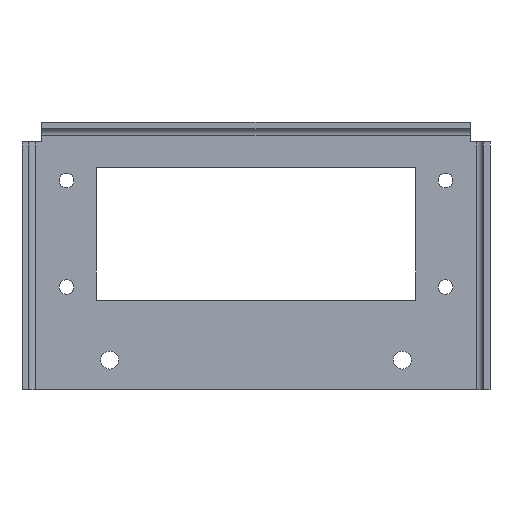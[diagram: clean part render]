
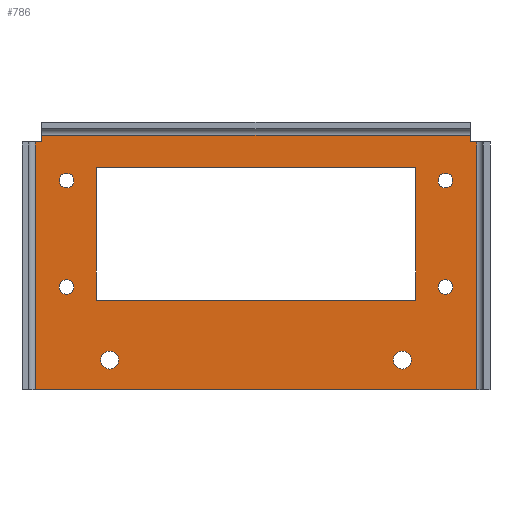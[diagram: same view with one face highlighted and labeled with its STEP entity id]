
A CAD part, left-side view. The second image highlights one B-rep face of the part: STEP entity #786.
In plain terms, the highlighted planar face has unit normal (-1, 0, 0).
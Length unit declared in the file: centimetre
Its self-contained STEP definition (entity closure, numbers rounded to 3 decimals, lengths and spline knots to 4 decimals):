
#15=FACE_BOUND('',#133,.T.);
#16=FACE_BOUND('',#134,.T.);
#17=FACE_BOUND('',#135,.T.);
#18=FACE_BOUND('',#136,.T.);
#19=FACE_BOUND('',#137,.T.);
#20=FACE_BOUND('',#138,.T.);
#21=FACE_BOUND('',#139,.T.);
#44=PLANE('',#866);
#86=FACE_OUTER_BOUND('',#132,.T.);
#132=EDGE_LOOP('',(#619,#620,#621,#622,#623,#624,#625,#626));
#133=EDGE_LOOP('',(#627));
#134=EDGE_LOOP('',(#628));
#135=EDGE_LOOP('',(#629));
#136=EDGE_LOOP('',(#630));
#137=EDGE_LOOP('',(#631,#632,#633,#634));
#138=EDGE_LOOP('',(#635));
#139=EDGE_LOOP('',(#636));
#179=LINE('',#1157,#259);
#183=LINE('',#1165,#263);
#186=LINE('',#1171,#266);
#189=LINE('',#1176,#269);
#210=LINE('',#1241,#290);
#211=LINE('',#1245,#291);
#212=LINE('',#1247,#292);
#213=LINE('',#1249,#293);
#214=LINE('',#1251,#294);
#215=LINE('',#1253,#295);
#216=LINE('',#1255,#296);
#217=LINE('',#1256,#297);
#259=VECTOR('',#931,1.);
#263=VECTOR('',#937,1.);
#266=VECTOR('',#942,1.);
#269=VECTOR('',#947,1.);
#290=VECTOR('',#1016,1.);
#291=VECTOR('',#1021,1.);
#292=VECTOR('',#1022,1.);
#293=VECTOR('',#1023,1.);
#294=VECTOR('',#1024,1.);
#295=VECTOR('',#1025,1.);
#296=VECTOR('',#1026,1.);
#297=VECTOR('',#1027,1.);
#339=CIRCLE('',#832,0.11);
#341=CIRCLE('',#835,0.135);
#343=CIRCLE('',#842,0.135);
#345=CIRCLE('',#845,0.11);
#347=CIRCLE('',#848,0.11);
#349=CIRCLE('',#851,0.11);
#367=VERTEX_POINT('',#1143);
#369=VERTEX_POINT('',#1149);
#371=VERTEX_POINT('',#1155);
#372=VERTEX_POINT('',#1156);
#375=VERTEX_POINT('',#1164);
#377=VERTEX_POINT('',#1170);
#379=VERTEX_POINT('',#1179);
#381=VERTEX_POINT('',#1185);
#383=VERTEX_POINT('',#1191);
#385=VERTEX_POINT('',#1197);
#396=VERTEX_POINT('',#1227);
#397=VERTEX_POINT('',#1231);
#399=VERTEX_POINT('',#1244);
#400=VERTEX_POINT('',#1246);
#401=VERTEX_POINT('',#1248);
#402=VERTEX_POINT('',#1250);
#403=VERTEX_POINT('',#1252);
#404=VERTEX_POINT('',#1254);
#433=EDGE_CURVE('',#367,#367,#339,.T.);
#436=EDGE_CURVE('',#369,#369,#341,.T.);
#439=EDGE_CURVE('',#371,#372,#179,.T.);
#443=EDGE_CURVE('',#372,#375,#183,.T.);
#446=EDGE_CURVE('',#375,#377,#186,.T.);
#449=EDGE_CURVE('',#377,#371,#189,.T.);
#451=EDGE_CURVE('',#379,#379,#343,.T.);
#454=EDGE_CURVE('',#381,#381,#345,.T.);
#457=EDGE_CURVE('',#383,#383,#347,.T.);
#460=EDGE_CURVE('',#385,#385,#349,.T.);
#482=EDGE_CURVE('',#396,#397,#210,.T.);
#483=EDGE_CURVE('',#397,#399,#211,.T.);
#484=EDGE_CURVE('',#399,#400,#212,.T.);
#485=EDGE_CURVE('',#400,#401,#213,.T.);
#486=EDGE_CURVE('',#401,#402,#214,.T.);
#487=EDGE_CURVE('',#402,#403,#215,.T.);
#488=EDGE_CURVE('',#403,#404,#216,.T.);
#489=EDGE_CURVE('',#404,#396,#217,.T.);
#619=ORIENTED_EDGE('',*,*,#482,.T.);
#620=ORIENTED_EDGE('',*,*,#483,.T.);
#621=ORIENTED_EDGE('',*,*,#484,.T.);
#622=ORIENTED_EDGE('',*,*,#485,.T.);
#623=ORIENTED_EDGE('',*,*,#486,.T.);
#624=ORIENTED_EDGE('',*,*,#487,.T.);
#625=ORIENTED_EDGE('',*,*,#488,.T.);
#626=ORIENTED_EDGE('',*,*,#489,.T.);
#627=ORIENTED_EDGE('',*,*,#460,.T.);
#628=ORIENTED_EDGE('',*,*,#457,.T.);
#629=ORIENTED_EDGE('',*,*,#454,.T.);
#630=ORIENTED_EDGE('',*,*,#451,.T.);
#631=ORIENTED_EDGE('',*,*,#446,.T.);
#632=ORIENTED_EDGE('',*,*,#449,.T.);
#633=ORIENTED_EDGE('',*,*,#439,.T.);
#634=ORIENTED_EDGE('',*,*,#443,.T.);
#635=ORIENTED_EDGE('',*,*,#436,.T.);
#636=ORIENTED_EDGE('',*,*,#433,.T.);
#786=ADVANCED_FACE('',(#86,#15,#16,#17,#18,#19,#20,#21),#44,.T.);
#832=AXIS2_PLACEMENT_3D('',#1144,#917,#918);
#835=AXIS2_PLACEMENT_3D('',#1150,#924,#925);
#842=AXIS2_PLACEMENT_3D('',#1180,#951,#952);
#845=AXIS2_PLACEMENT_3D('',#1186,#958,#959);
#848=AXIS2_PLACEMENT_3D('',#1192,#965,#966);
#851=AXIS2_PLACEMENT_3D('',#1198,#972,#973);
#866=AXIS2_PLACEMENT_3D('',#1243,#1019,#1020);
#917=DIRECTION('center_axis',(1.,0.,0.));
#918=DIRECTION('ref_axis',(0.,0.,-1.));
#924=DIRECTION('center_axis',(1.,0.,0.));
#925=DIRECTION('ref_axis',(0.,0.,-1.));
#931=DIRECTION('',(0.,1.,0.));
#937=DIRECTION('',(0.,0.,1.));
#942=DIRECTION('',(0.,-1.,0.));
#947=DIRECTION('',(0.,0.,-1.));
#951=DIRECTION('center_axis',(1.,0.,0.));
#952=DIRECTION('ref_axis',(0.,0.,-1.));
#958=DIRECTION('center_axis',(1.,0.,0.));
#959=DIRECTION('ref_axis',(0.,0.,-1.));
#965=DIRECTION('center_axis',(1.,0.,0.));
#966=DIRECTION('ref_axis',(0.,0.,-1.));
#972=DIRECTION('center_axis',(1.,0.,0.));
#973=DIRECTION('ref_axis',(0.,0.,-1.));
#1016=DIRECTION('',(0.,1.,0.));
#1019=DIRECTION('center_axis',(-1.,0.,0.));
#1020=DIRECTION('ref_axis',(0.,0.,1.));
#1021=DIRECTION('',(0.,0.,-1.));
#1022=DIRECTION('',(0.,1.,0.));
#1023=DIRECTION('',(0.,0.,-1.));
#1024=DIRECTION('',(0.,-1.,0.));
#1025=DIRECTION('',(0.,0.,1.));
#1026=DIRECTION('',(0.,1.,0.));
#1027=DIRECTION('',(0.,0.,1.));
#1143=CARTESIAN_POINT('',(17.785,2.85,1.91));
#1144=CARTESIAN_POINT('Origin',(17.785,2.85,1.8));
#1149=CARTESIAN_POINT('',(17.785,-2.2,0.835));
#1150=CARTESIAN_POINT('Origin',(17.785,-2.2,0.7));
#1155=CARTESIAN_POINT('',(17.785,-2.4,1.6));
#1156=CARTESIAN_POINT('',(17.785,2.4,1.6));
#1157=CARTESIAN_POINT('',(17.785,-1.2,1.6));
#1164=CARTESIAN_POINT('',(17.785,2.4,3.6));
#1165=CARTESIAN_POINT('',(17.785,2.4,1.9325));
#1170=CARTESIAN_POINT('',(17.785,-2.4,3.6));
#1171=CARTESIAN_POINT('',(17.785,1.2,3.6));
#1176=CARTESIAN_POINT('',(17.785,-2.4,2.9325));
#1179=CARTESIAN_POINT('',(17.785,2.2,0.835));
#1180=CARTESIAN_POINT('Origin',(17.785,2.2,0.7));
#1185=CARTESIAN_POINT('',(17.785,-2.85,1.91));
#1186=CARTESIAN_POINT('Origin',(17.785,-2.85,1.8));
#1191=CARTESIAN_POINT('',(17.785,-2.85,3.51));
#1192=CARTESIAN_POINT('Origin',(17.785,-2.85,3.4));
#1197=CARTESIAN_POINT('',(17.785,2.85,3.51));
#1198=CARTESIAN_POINT('Origin',(17.785,2.85,3.4));
#1227=CARTESIAN_POINT('',(17.785,-3.22,4.08));
#1231=CARTESIAN_POINT('',(17.785,3.22,4.08));
#1241=CARTESIAN_POINT('',(17.785,-1.61,4.08));
#1243=CARTESIAN_POINT('Origin',(17.785,0.,2.265));
#1244=CARTESIAN_POINT('',(17.785,3.22,3.98));
#1245=CARTESIAN_POINT('',(17.785,3.22,3.98));
#1246=CARTESIAN_POINT('',(17.785,3.32,3.98));
#1247=CARTESIAN_POINT('',(17.785,3.52,3.98));
#1248=CARTESIAN_POINT('',(17.785,3.32,0.25));
#1249=CARTESIAN_POINT('',(17.785,3.32,3.1225));
#1250=CARTESIAN_POINT('',(17.785,-3.32,0.25));
#1251=CARTESIAN_POINT('',(17.785,-3.52,0.25));
#1252=CARTESIAN_POINT('',(17.785,-3.32,3.98));
#1253=CARTESIAN_POINT('',(17.785,-3.32,1.2575));
#1254=CARTESIAN_POINT('',(17.785,-3.22,3.98));
#1255=CARTESIAN_POINT('',(17.785,-3.22,3.98));
#1256=CARTESIAN_POINT('',(17.785,-3.22,4.28));
